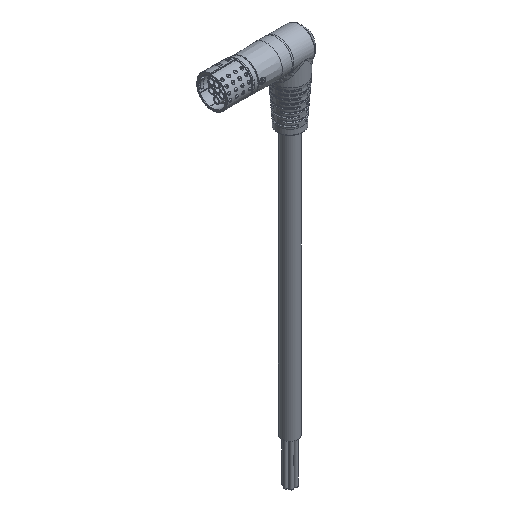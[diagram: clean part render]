
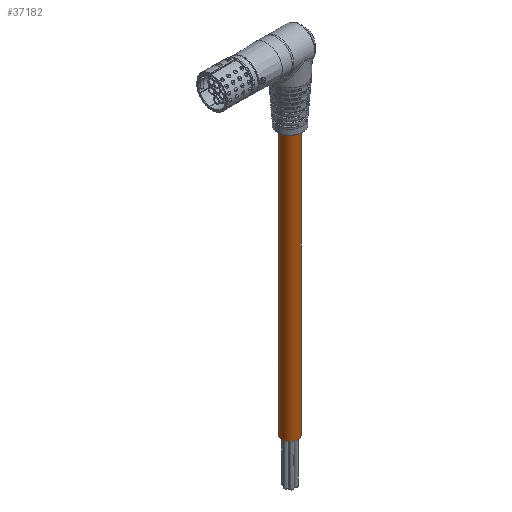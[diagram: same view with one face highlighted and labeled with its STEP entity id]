
A CAD part, isometric view. The second image highlights one B-rep face of the part: STEP entity #37182.
In plain terms, the highlighted cylindrical face has radius 5.55 mm (diameter 11.1 mm), a full revolution.
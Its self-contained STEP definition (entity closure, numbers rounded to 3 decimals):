
#651 = EDGE_LOOP ( 'NONE', ( #20740 ) ) ;
#3466 = ORIENTED_EDGE ( 'NONE', *, *, #14096, .F. ) ;
#5536 = DIRECTION ( 'NONE',  ( 0.481, -0.877, 0. ) ) ;
#6008 = CARTESIAN_POINT ( 'NONE',  ( -2.671, 4.865, -19.793 ) ) ;
#6219 = CARTESIAN_POINT ( 'NONE',  ( 2.671, -4.865, -204.898 ) ) ;
#7517 = AXIS2_PLACEMENT_3D ( 'NONE', #39279, #30549, #27440 ) ;
#10260 = CYLINDRICAL_SURFACE ( 'NONE', #32527, 5.55 ) ;
#10675 = DIRECTION ( 'NONE',  ( 0., 0., 1. ) ) ;
#10817 = CIRCLE ( 'NONE', #7517, 5.55 ) ;
#14096 = EDGE_CURVE ( 'NONE', #31081, #31081, #10817, .T. ) ;
#19406 = FACE_OUTER_BOUND ( 'NONE', #30672, .T. ) ;
#19628 = CIRCLE ( 'NONE', #24893, 5.55 ) ;
#20740 = ORIENTED_EDGE ( 'NONE', *, *, #21867, .F. ) ;
#21867 = EDGE_CURVE ( 'NONE', #37913, #37913, #19628, .T. ) ;
#24893 = AXIS2_PLACEMENT_3D ( 'NONE', #40773, #33717, #5536 ) ;
#26002 = DIRECTION ( 'NONE',  ( -0.481, 0.877, 0. ) ) ;
#27440 = DIRECTION ( 'NONE',  ( -0.481, 0.877, 0. ) ) ;
#30549 = DIRECTION ( 'NONE',  ( 0., 0., 1. ) ) ;
#30672 = EDGE_LOOP ( 'NONE', ( #3466 ) ) ;
#31081 = VERTEX_POINT ( 'NONE', #6008 ) ;
#32527 = AXIS2_PLACEMENT_3D ( 'NONE', #38856, #10675, #26002 ) ;
#33717 = DIRECTION ( 'NONE',  ( 0., 0., -1. ) ) ;
#35338 = FACE_OUTER_BOUND ( 'NONE', #651, .T. ) ;
#37182 = ADVANCED_FACE ( 'NONE', ( #19406, #35338 ), #10260, .T. ) ;
#37913 = VERTEX_POINT ( 'NONE', #6219 ) ;
#38856 = CARTESIAN_POINT ( 'NONE',  ( 0., 0., -23.293 ) ) ;
#39279 = CARTESIAN_POINT ( 'NONE',  ( 0., 0., -19.793 ) ) ;
#40773 = CARTESIAN_POINT ( 'NONE',  ( 0., 0., -204.898 ) ) ;
